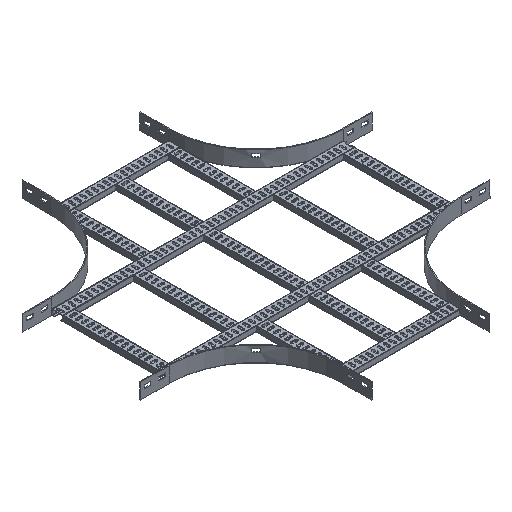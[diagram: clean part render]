
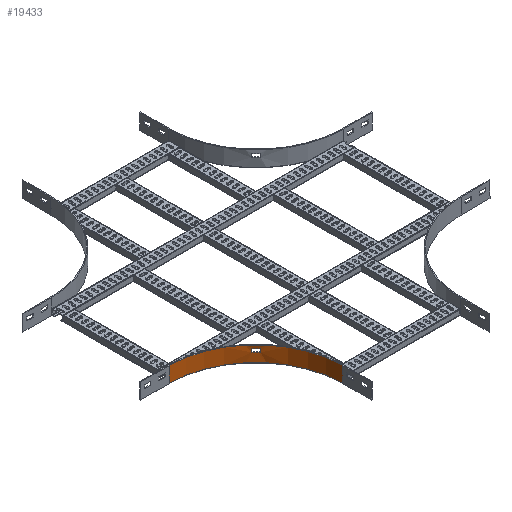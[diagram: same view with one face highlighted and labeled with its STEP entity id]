
A CAD part, isometric view. The second image highlights one B-rep face of the part: STEP entity #19433.
In plain terms, the highlighted cylindrical face has radius 300 mm (diameter 600 mm), a partial arc.
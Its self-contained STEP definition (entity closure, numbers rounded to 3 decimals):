
#523=FACE_BOUND('',#2843,.T.);
#913=CYLINDRICAL_SURFACE('',#20459,300.);
#966=CIRCLE('',#20451,300.);
#971=CIRCLE('',#20458,300.);
#972=CIRCLE('',#20460,300.);
#973=CIRCLE('',#20461,300.);
#1845=FACE_OUTER_BOUND('',#2842,.T.);
#2842=EDGE_LOOP('',(#13140,#13141,#13142,#13143));
#2843=EDGE_LOOP('',(#13144,#13145,#13146,#13147));
#4227=LINE('',#27053,#6247);
#4229=LINE('',#27059,#6249);
#4234=LINE('',#27083,#6254);
#4235=LINE('',#27086,#6255);
#6247=VECTOR('',#22005,304.8);
#6249=VECTOR('',#22009,304.8);
#6254=VECTOR('',#22036,304.8);
#6255=VECTOR('',#22039,304.8);
#8264=VERTEX_POINT('',#27046);
#8267=VERTEX_POINT('',#27051);
#8269=VERTEX_POINT('',#27056);
#8270=VERTEX_POINT('',#27058);
#8276=VERTEX_POINT('',#27079);
#8277=VERTEX_POINT('',#27080);
#8278=VERTEX_POINT('',#27082);
#8279=VERTEX_POINT('',#27084);
#10203=EDGE_CURVE('',#8267,#8264,#4227,.T.);
#10205=EDGE_CURVE('',#8269,#8270,#4229,.T.);
#10208=EDGE_CURVE('',#8264,#8269,#966,.T.);
#10215=EDGE_CURVE('',#8270,#8267,#971,.T.);
#10216=EDGE_CURVE('',#8276,#8277,#972,.T.);
#10217=EDGE_CURVE('',#8277,#8278,#4234,.T.);
#10218=EDGE_CURVE('',#8278,#8279,#973,.T.);
#10219=EDGE_CURVE('',#8279,#8276,#4235,.T.);
#13140=ORIENTED_EDGE('',*,*,#10203,.F.);
#13141=ORIENTED_EDGE('',*,*,#10215,.F.);
#13142=ORIENTED_EDGE('',*,*,#10205,.F.);
#13143=ORIENTED_EDGE('',*,*,#10208,.F.);
#13144=ORIENTED_EDGE('',*,*,#10216,.T.);
#13145=ORIENTED_EDGE('',*,*,#10217,.T.);
#13146=ORIENTED_EDGE('',*,*,#10218,.T.);
#13147=ORIENTED_EDGE('',*,*,#10219,.T.);
#19433=ADVANCED_FACE('',(#1845,#523),#913,.F.);
#20451=AXIS2_PLACEMENT_3D('',#27064,#22014,#22015);
#20458=AXIS2_PLACEMENT_3D('',#27077,#22030,#22031);
#20459=AXIS2_PLACEMENT_3D('',#27078,#22032,#22033);
#20460=AXIS2_PLACEMENT_3D('',#27081,#22034,#22035);
#20461=AXIS2_PLACEMENT_3D('',#27085,#22037,#22038);
#22005=DIRECTION('',(0.,0.,1.));
#22009=DIRECTION('',(0.,0.,-1.));
#22014=DIRECTION('center_axis',(0.,0.,-1.));
#22015=DIRECTION('ref_axis',(0.,1.,0.));
#22030=DIRECTION('center_axis',(0.,0.,1.));
#22031=DIRECTION('ref_axis',(0.,1.,0.));
#22032=DIRECTION('center_axis',(0.,0.,-1.));
#22033=DIRECTION('ref_axis',(0.,1.,0.));
#22034=DIRECTION('center_axis',(0.,0.,-1.));
#22035=DIRECTION('ref_axis',(0.,1.,0.));
#22036=DIRECTION('',(0.,0.,-1.));
#22037=DIRECTION('center_axis',(0.,0.,1.));
#22038=DIRECTION('ref_axis',(0.,1.,0.));
#22039=DIRECTION('',(0.,0.,1.));
#27046=CARTESIAN_POINT('',(-505.5,-205.5,27.));
#27051=CARTESIAN_POINT('',(-505.5,-205.5,-27.));
#27053=CARTESIAN_POINT('',(-505.5,-205.5,-27.));
#27056=CARTESIAN_POINT('',(-205.5,-505.5,27.));
#27058=CARTESIAN_POINT('',(-205.5,-505.5,-27.));
#27059=CARTESIAN_POINT('',(-205.5,-505.5,27.));
#27064=CARTESIAN_POINT('Origin',(-505.5,-505.5,27.));
#27077=CARTESIAN_POINT('Origin',(-505.5,-505.5,-27.));
#27078=CARTESIAN_POINT('Origin',(-505.5,-505.5,0.));
#27079=CARTESIAN_POINT('',(-301.26,-285.759,15.5));
#27080=CARTESIAN_POINT('',(-285.706,-301.318,15.5));
#27081=CARTESIAN_POINT('Origin',(-505.5,-505.5,15.5));
#27082=CARTESIAN_POINT('',(-285.706,-301.318,4.5));
#27083=CARTESIAN_POINT('',(-285.706,-301.318,15.5));
#27084=CARTESIAN_POINT('',(-301.26,-285.759,4.5));
#27085=CARTESIAN_POINT('Origin',(-505.5,-505.5,4.5));
#27086=CARTESIAN_POINT('',(-301.26,-285.759,4.5));
